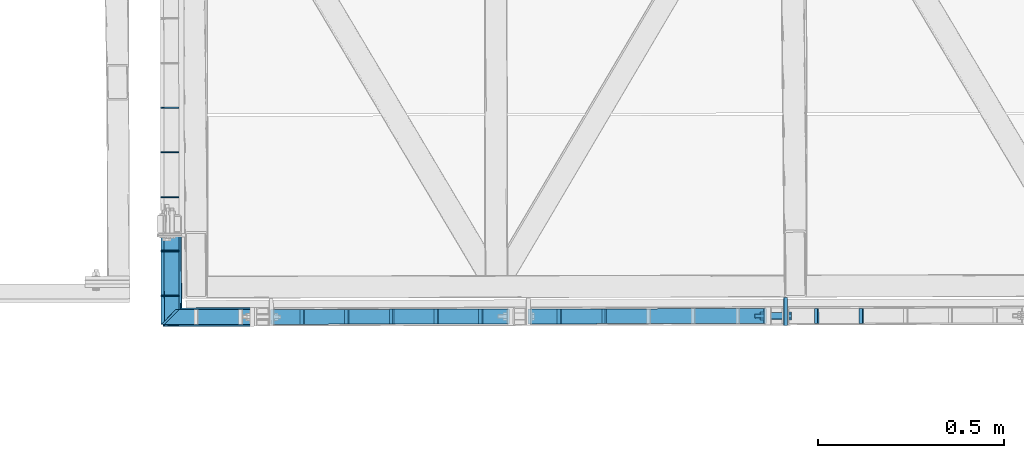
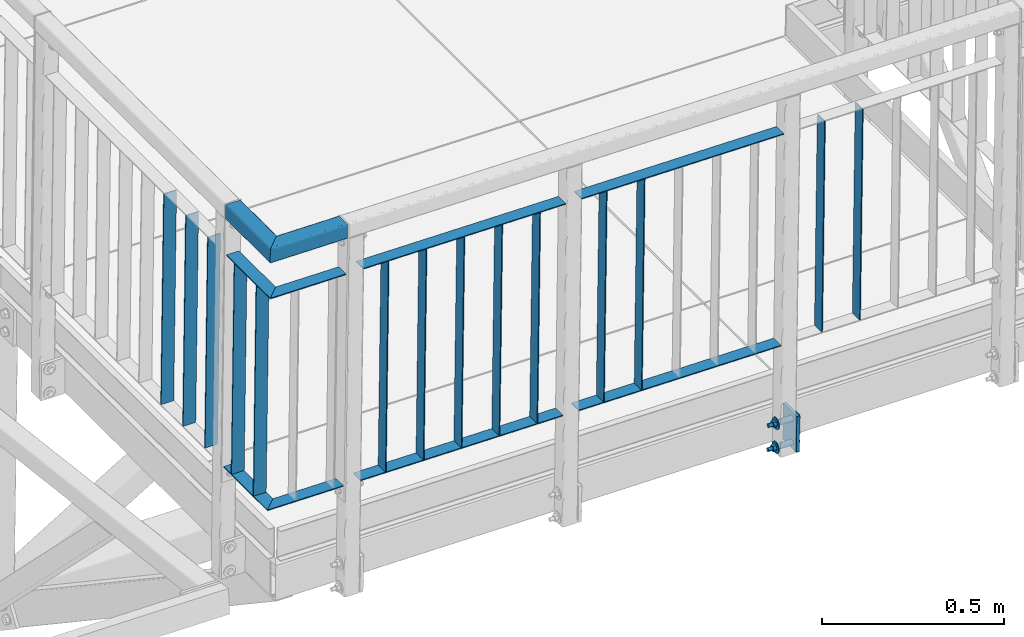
# One storey, part 99 of 169: 25 discrete accessories, 1 mechanical fastener, 2 elements without a shape of their own.
"""IFC2X3 building model written with IfcOpenShell, lengths in millimetres."""

from ifc_helpers import new_model, si_unit, frame, origin_with_axes, origin_2d_with_axis, place, context, subcontext, project, spatial, polyline, rectangle, hollow_rectangle, circle, outline, extrude, boolean, clip, halfspace, source, transform, mapped, material, type_object, element, aggregate, save


model = new_model("IFC2X3")

# Units and contexts
model_context = context("Model", 3, precision=1e-05, world=origin_with_axes())
body_context = subcontext(model_context, "Body", "Model", "MODEL_VIEW")
ifc_project = project(units=[si_unit("LENGTHUNIT", "METRE", prefix="MILLI"), si_unit("AREAUNIT", "SQUARE_METRE"), si_unit("VOLUMEUNIT", "CUBIC_METRE"), si_unit("MASSUNIT", "GRAM", prefix="KILO"), si_unit("TIMEUNIT", "SECOND"), si_unit("PLANEANGLEUNIT", "RADIAN"), si_unit("SOLIDANGLEUNIT", "STERADIAN"), si_unit("THERMODYNAMICTEMPERATUREUNIT", "DEGREE_CELSIUS"), si_unit("LUMINOUSINTENSITYUNIT", "LUMEN")], contexts=[model_context])

# Site, building, storey
site_placement = place(None, origin_with_axes())
site = spatial("IfcSite", under=ifc_project, at=site_placement, Name="Undefined", CompositionType="ELEMENT")
building_placement = place(site_placement, origin_with_axes())
building = spatial("IfcBuilding", under=site, at=building_placement, Name="Undefined", CompositionType="ELEMENT")
storey_placement = place(building_placement, origin_with_axes())
storey = spatial("IfcBuildingStorey", under=building, at=storey_placement, Name="Undefined", CompositionType="ELEMENT", Elevation=0.0)

# Assembly, discrete accessory
assembly_1_placement = place(storey_placement, origin_with_axes())
assembly_1 = element("IfcElementAssembly", 1, at=assembly_1_placement, inside=storey, Name="Steel Assembly", AssemblyPlace="NOTDEFINED", PredefinedType="RIGID_FRAME")
ifc_material_1 = material(Name="STEEL/S235")
discrete_accessory_type_1 = type_object("IfcDiscreteAccessoryType", Name="BLACHA")
discrete_accessory_1_placement = place(assembly_1_placement, frame((9317.47448240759, -1437.61285706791, 13835.8454229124), z_axis=(-0.999917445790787, -0.00186469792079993, 0.0127131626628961), x_axis=(0.00186484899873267, -0.999998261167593, 4.28757666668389e-08)))
discrete_accessory_1 = element("IfcDiscreteAccessory", 2, at=discrete_accessory_1_placement, type_object=discrete_accessory_type_1, material=ifc_material_1, Name="BLACHA", ObjectType="BL10*120", context=body_context, shape_type="SweptSolid", body=[
    extrude(outline(polyline([(75.0000002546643, -60.0000000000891), (-5.35749222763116e-11, -59.9999999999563), (5.3567816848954e-11, 59.9999999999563), (75.0000002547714, 59.9999999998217), (75.0000002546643, -60.0000000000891)])), frame((-1.81898926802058e-12, -1.18000176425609e-16, -5.00000000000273), z_axis=(0.0, 0.0, 1.0), x_axis=(1.0, 0.0, 0.0)), (0.0, 0.0, 1.0), 10.0),
])
aggregate(assembly_1, [discrete_accessory_1])

# Assembly, discrete accessories, mechanical fastener
assembly_2_placement = place(storey_placement, origin_with_axes())
assembly_2 = element("IfcElementAssembly", 3, at=assembly_2_placement, inside=storey, Name="Steel Assembly", AssemblyPlace="NOTDEFINED", PredefinedType="RIGID_FRAME")
discrete_accessory_type_2 = type_object("IfcDiscreteAccessoryType", Name="PORĘCZ")
discrete_accessory_2_placement = place(assembly_2_placement, frame((9527.46551248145, -1487.22129169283, 14993.270493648), z_axis=(-0.0018648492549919, 0.999998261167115, -4.2996762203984e-08), x_axis=(-0.012713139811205, -2.37511238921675e-05, -0.999919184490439)))
discrete_accessory_2 = element("IfcDiscreteAccessory", 4, at=discrete_accessory_2_placement, type_object=discrete_accessory_type_2, material=ifc_material_1, Name="PORĘCZ", ObjectType="BL40*3", context=body_context, shape_type="Clipping", body=[
    clip(clip(extrude(rectangle(XDim=3.0, YDim=40.0, at=origin_2d_with_axis()), frame((848.500000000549, 1.47191286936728e-15, -8.89750592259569e-16), z_axis=(-1.0, -3.46944695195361e-18, -1.38777878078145e-17), x_axis=(1.73472347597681e-18, -1.0, 0.0)), (0.0, 0.0, 1.0), 702.0), halfspace(frame((848.499999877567, 4.522007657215e-09, 1000.00000000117), z_axis=(-1.0, -3.46944695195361e-18, -1.38777878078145e-17), x_axis=(1.73472347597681e-18, -1.0, 0.0)), True)), halfspace(frame((146.499999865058, 4.97311702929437e-09, 1000.00000000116), z_axis=(1.0, 0.0, 0.0), x_axis=(0.0, 1.0, 0.0)), True)),
])
discrete_accessory_3_placement = place(assembly_2_placement, frame((9407.47541898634, -1487.44505545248, 14994.7960730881), z_axis=(-0.0018648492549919, 0.999998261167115, -4.2996762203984e-08), x_axis=(-0.012713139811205, -2.37511238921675e-05, -0.999919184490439)))
discrete_accessory_3 = element("IfcDiscreteAccessory", 5, at=discrete_accessory_3_placement, type_object=discrete_accessory_type_2, material=ifc_material_1, Name="PORĘCZ", ObjectType="BL40*3", context=body_context, shape_type="Clipping", body=[
    clip(clip(extrude(rectangle(XDim=3.0, YDim=40.0, at=origin_2d_with_axis()), frame((848.500000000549, 1.47191286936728e-15, -8.89750592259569e-16), z_axis=(-1.0, -3.46944695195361e-18, -1.38777878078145e-17), x_axis=(1.73472347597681e-18, -1.0, 0.0)), (0.0, 0.0, 1.0), 702.0), halfspace(frame((848.499999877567, 4.522007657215e-09, 1000.00000000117), z_axis=(-1.0, -3.46944695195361e-18, -1.38777878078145e-17), x_axis=(1.73472347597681e-18, -1.0, 0.0)), True)), halfspace(frame((146.499999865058, 4.97311702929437e-09, 1000.00000000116), z_axis=(1.0, 0.0, 0.0), x_axis=(0.0, 1.0, 0.0)), True)),
])
discrete_accessory_4_placement = place(assembly_2_placement, frame((9560.48906803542, -1487.15974421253, 14142.781926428), z_axis=(-0.012713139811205, -2.37511238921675e-05, -0.999919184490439), x_axis=(-0.999917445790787, -0.00186469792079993, 0.0127131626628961)))
discrete_accessory_4 = element("IfcDiscreteAccessory", 6, at=discrete_accessory_4_placement, type_object=discrete_accessory_type_2, material=ifc_material_1, Name="PORĘCZ", ObjectType="BL40*3", context=body_context, shape_type="Clipping", body=[
    clip(extrude(outline(polyline([(935.000000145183, -19.9999999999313), (294.000000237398, -19.9999999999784), (294.000000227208, 20.0000000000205), (935.000000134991, 20.0000000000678), (935.000000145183, -19.9999999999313)])), frame((1.81898940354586e-12, -1.77635442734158e-15, -1.50000000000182), z_axis=(0.0, 0.0, 1.0), x_axis=(1.0, 0.0, 0.0)), (0.0, 0.0, 1.0), 3.0), halfspace(frame((293.999999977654, 1000.00000000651, -6.87577994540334e-09), z_axis=(1.0, 0.0, 0.0), x_axis=(-2.54700353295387e-10, 0.0, -1.0)), True)),
])
discrete_accessory_5_placement = place(assembly_2_placement, frame((8836.52255752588, -1488.50979801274, 15002.055288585), z_axis=(-0.0018648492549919, 0.999998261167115, -4.2996762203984e-08), x_axis=(-0.012713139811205, -2.37511238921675e-05, -0.999919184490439)))
discrete_accessory_5 = element("IfcDiscreteAccessory", 7, at=discrete_accessory_5_placement, type_object=discrete_accessory_type_2, material=ifc_material_1, Name="PORĘCZ", ObjectType="BL40*3", context=body_context, shape_type="Clipping", body=[
    clip(clip(extrude(rectangle(XDim=3.0, YDim=40.0, at=origin_2d_with_axis()), frame((848.500000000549, 1.47191286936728e-15, -8.89750592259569e-16), z_axis=(-1.0, -3.46944695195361e-18, -1.38777878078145e-17), x_axis=(1.73472347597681e-18, -1.0, 0.0)), (0.0, 0.0, 1.0), 702.0), halfspace(frame((848.499999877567, 4.522007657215e-09, 1000.00000000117), z_axis=(-1.0, -3.46944695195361e-18, -1.38777878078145e-17), x_axis=(1.73472347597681e-18, -1.0, 0.0)), True)), halfspace(frame((146.499999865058, 4.97311702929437e-09, 1000.00000000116), z_axis=(1.0, 0.0, 0.0), x_axis=(0.0, 1.0, 0.0)), True)),
])
discrete_accessory_6_placement = place(assembly_2_placement, frame((8716.53246403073, -1488.73356177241, 15003.5808680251), z_axis=(-0.0018648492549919, 0.999998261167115, -4.2996762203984e-08), x_axis=(-0.012713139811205, -2.37511238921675e-05, -0.999919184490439)))
discrete_accessory_6 = element("IfcDiscreteAccessory", 8, at=discrete_accessory_6_placement, type_object=discrete_accessory_type_2, material=ifc_material_1, Name="PORĘCZ", ObjectType="BL40*3", context=body_context, shape_type="Clipping", body=[
    clip(clip(extrude(rectangle(XDim=3.0, YDim=40.0, at=origin_2d_with_axis()), frame((848.500000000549, 1.47191286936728e-15, -8.89750592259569e-16), z_axis=(-1.0, -3.46944695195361e-18, -1.38777878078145e-17), x_axis=(1.73472347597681e-18, -1.0, 0.0)), (0.0, 0.0, 1.0), 702.0), halfspace(frame((848.499999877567, 4.522007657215e-09, 1000.00000000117), z_axis=(-1.0, -3.46944695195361e-18, -1.38777878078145e-17), x_axis=(1.73472347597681e-18, -1.0, 0.0)), True)), halfspace(frame((146.499999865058, 4.97311702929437e-09, 1000.00000000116), z_axis=(1.0, 0.0, 0.0), x_axis=(0.0, 1.0, 0.0)), True)),
])
discrete_accessory_7_placement = place(assembly_2_placement, frame((9569.45183160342, -1487.14299975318, 14847.7249514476), z_axis=(-0.012713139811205, -2.37511238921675e-05, -0.999919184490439), x_axis=(-0.999917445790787, -0.00186469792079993, 0.0127131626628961)))
discrete_accessory_7 = element("IfcDiscreteAccessory", 9, at=discrete_accessory_7_placement, type_object=discrete_accessory_type_2, material=ifc_material_1, Name="PORĘCZ", ObjectType="BL40*3", context=body_context, shape_type="Clipping", body=[
    clip(extrude(outline(polyline([(935.000000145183, -19.9999999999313), (294.000000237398, -19.9999999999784), (294.000000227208, 20.0000000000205), (935.000000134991, 20.0000000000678), (935.000000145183, -19.9999999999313)])), frame((1.81898940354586e-12, -1.77635442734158e-15, -1.50000000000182), z_axis=(0.0, 0.0, 1.0), x_axis=(1.0, 0.0, 0.0)), (0.0, 0.0, 1.0), 3.0), halfspace(frame((293.999999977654, 1000.00000000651, -6.87577994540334e-09), z_axis=(1.0, 0.0, 0.0), x_axis=(-2.54700353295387e-10, 0.0, -1.0)), True)),
])
discrete_accessory_8_placement = place(assembly_2_placement, frame((7670.12116042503, -1313.18465357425, 15016.8809466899), z_axis=(0.9999174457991, 0.00186469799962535, -0.0127131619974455), x_axis=(-0.012713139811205, -2.37511238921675e-05, -0.999919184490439)))
discrete_accessory_8 = element("IfcDiscreteAccessory", 10, at=discrete_accessory_8_placement, type_object=discrete_accessory_type_2, material=ifc_material_1, Name="PORĘCZ", ObjectType="BL40*3", context=body_context, shape_type="Clipping", body=[
    clip(clip(extrude(rectangle(XDim=3.0, YDim=40.0, at=origin_2d_with_axis()), frame((848.500000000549, 1.47191286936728e-15, -8.89750592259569e-16), z_axis=(-1.0, -3.46944695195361e-18, -1.38777878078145e-17), x_axis=(1.73472347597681e-18, -1.0, 0.0)), (0.0, 0.0, 1.0), 702.0), halfspace(frame((848.500000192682, -1.64149582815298e-10, -999.999999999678), z_axis=(-1.0, -3.46944695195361e-18, -1.38777878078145e-17), x_axis=(0.0, 1.0, 0.0)), True)), halfspace(frame((146.500000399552, -5.92180526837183e-10, -999.999999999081), z_axis=(1.0, 0.0, 0.0), x_axis=(1.73472347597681e-18, -1.0, 0.0)), True)),
])
discrete_accessory_9_placement = place(assembly_2_placement, frame((7670.34494233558, -1433.18444491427, 15016.8809518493), z_axis=(0.9999174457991, 0.00186469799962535, -0.0127131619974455), x_axis=(-0.012713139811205, -2.37511238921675e-05, -0.999919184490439)))
discrete_accessory_9 = element("IfcDiscreteAccessory", 11, at=discrete_accessory_9_placement, type_object=discrete_accessory_type_2, material=ifc_material_1, Name="PORĘCZ", ObjectType="BL40*3", context=body_context, shape_type="Clipping", body=[
    clip(clip(extrude(rectangle(XDim=3.0, YDim=40.0, at=origin_2d_with_axis()), frame((848.500000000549, 1.47191286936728e-15, -8.89750592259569e-16), z_axis=(-1.0, -3.46944695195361e-18, -1.38777878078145e-17), x_axis=(1.73472347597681e-18, -1.0, 0.0)), (0.0, 0.0, 1.0), 702.0), halfspace(frame((848.500000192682, -1.64149582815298e-10, -999.999999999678), z_axis=(-1.0, -3.46944695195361e-18, -1.38777878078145e-17), x_axis=(0.0, 1.0, 0.0)), True)), halfspace(frame((146.500000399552, -5.92180526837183e-10, -999.999999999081), z_axis=(1.0, 0.0, 0.0), x_axis=(1.73472347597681e-18, -1.0, 0.0)), True)),
])
discrete_accessory_10_placement = place(assembly_2_placement, frame((7668.18917442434, -1265.68818028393, 14871.8926626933), z_axis=(-0.012713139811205, -2.37511238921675e-05, -0.999919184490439), x_axis=(0.00186484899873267, -0.999998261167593, 4.28757666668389e-08)))
discrete_accessory_10 = element("IfcDiscreteAccessory", 12, at=discrete_accessory_10_placement, type_object=discrete_accessory_type_2, material=ifc_material_1, Name="PORĘCZ", ObjectType="BL40*3", context=body_context, shape_type="CSG", body=[
    boolean("DIFFERENCE", boolean("DIFFERENCE", boolean("DIFFERENCE", boolean("DIFFERENCE", extrude(outline(polyline([(4.99999984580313, 20.0000000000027), (245.000001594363, 19.9999999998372), (205.000001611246, -20.0000000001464), (5.00000188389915, -20.0000000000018), (4.99999984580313, 20.0000000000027)])), frame((1.81898940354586e-12, -1.77635442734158e-15, -1.50000000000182), z_axis=(0.0, 0.0, 1.0), x_axis=(1.0, 0.0, 0.0)), (0.0, 0.0, 1.0), 3.0), extrude(rectangle(XDim=51.0, YDim=51.0, at=origin_2d_with_axis()), frame((-25.0000001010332, -1.80187129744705e-07, -139.999999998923), z_axis=(0.0, 0.0, 1.0), x_axis=(-1.0, -3.46944695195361e-18, -1.38777878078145e-17)), (0.0, 0.0, 1.0), 280.0)), halfspace(frame((4.99999813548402, 1000.00000000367, -4.42014425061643e-10), z_axis=(1.0, 0.0, 0.0), x_axis=(-2.54700353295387e-10, 0.0, -1.0)), True)), halfspace(frame((245.000001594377, 20.0000000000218, 7.27595761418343e-12), z_axis=(0.707106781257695, -0.7071067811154, 8.78533101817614e-11), x_axis=(-2.54700353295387e-10, 0.0, -1.0)), False)), halfspace(frame((-8.25479219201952e-07, 1000.00000001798, 2.65572452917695e-09), z_axis=(1.0, 0.0, 0.0), x_axis=(-2.54700353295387e-10, 0.0, -1.0)), True)),
])
discrete_accessory_11_placement = place(assembly_2_placement, frame((7895.43360214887, -1490.26478958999, 15014.0204927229), z_axis=(-0.0018648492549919, 0.999998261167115, -4.2996762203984e-08), x_axis=(-0.999917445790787, -0.00186469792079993, 0.0127131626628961)))
discrete_accessory_11 = element("IfcDiscreteAccessory", 13, at=discrete_accessory_11_placement, type_object=discrete_accessory_type_2, material=ifc_material_1, Name="PORĘCZ", ObjectType="RHS50*3", context=body_context, shape_type="Clipping", body=[
    clip(clip(extrude(hollow_rectangle(XDim=50.0, YDim=50.0, WallThickness=3.0, InnerFilletRadius=3.0, OuterFilletRadius=6.0, at=origin_2d_with_axis()), frame((251.628093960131, 0.0, 4.54766852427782e-13), z_axis=(-1.0, -3.46944695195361e-18, -1.38777878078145e-17), x_axis=(1.73472347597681e-18, -1.0, 0.0)), (0.0, 0.0, 1.0), 246.63), halfspace(frame((250.000001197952, 9.74578142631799e-08, -25.0000000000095), z_axis=(-0.707106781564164, -2.34576254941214e-10, -0.707106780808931), x_axis=(0.0, 1.0, 0.0)), True)), halfspace(frame((4.99999708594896, 5.00222085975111e-10, 999.999999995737), z_axis=(1.0, 0.0, 0.0), x_axis=(0.0, 1.0, 0.0)), True)),
])
discrete_accessory_12_placement = place(assembly_2_placement, frame((7668.60876685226, -1490.68779065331, 14871.8926724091), z_axis=(0.012713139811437, 2.3750999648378e-05, 0.999919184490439), x_axis=(0.9999174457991, 0.00186469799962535, -0.0127131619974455)))
discrete_accessory_12 = element("IfcDiscreteAccessory", 14, at=discrete_accessory_12_placement, type_object=discrete_accessory_type_2, material=ifc_material_1, Name="PORĘCZ", ObjectType="BL40*3", context=body_context, shape_type="CSG", body=[
    boolean("DIFFERENCE", boolean("DIFFERENCE", boolean("DIFFERENCE", boolean("DIFFERENCE", extrude(outline(polyline([(-20.000001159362, -19.9999999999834), (19.9999987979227, 19.9999999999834), (220.000004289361, 20.0000000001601), (220.000004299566, -19.9999999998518), (-20.000001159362, -19.9999999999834)])), frame((1.81898940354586e-12, -1.77635442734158e-15, -1.50000000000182), z_axis=(0.0, 0.0, 1.0), x_axis=(1.0, 0.0, 0.0)), (0.0, 0.0, 1.0), 3.0), extrude(rectangle(XDim=51.0, YDim=51.0, at=origin_2d_with_axis()), frame((249.999999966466, -2.54023980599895e-08, 139.999999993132), z_axis=(-2.54700353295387e-10, 0.0, -1.0), x_axis=(-1.0, -3.46944695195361e-18, -1.38777878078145e-17)), (0.0, 0.0, 1.0), 280.0)), halfspace(frame((220.000002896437, 999.999999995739, 3.80168785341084e-10), z_axis=(-1.0, -3.46944695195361e-18, -1.38777878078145e-17), x_axis=(0.0, 0.0, 1.0)), True)), halfspace(frame((-20.0000011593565, -19.9999999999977, -5.57247403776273e-08), z_axis=(0.707106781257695, -0.7071067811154, 8.78533101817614e-11), x_axis=(0.0, 0.0, 1.0)), True)), halfspace(frame((224.999999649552, 999.999999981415, 6.55563781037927e-09), z_axis=(-1.0, -3.46944695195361e-18, -1.38777878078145e-17), x_axis=(0.0, 0.0, 1.0)), True)),
])
discrete_accessory_13_placement = place(assembly_2_placement, frame((7669.40319321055, -928.185323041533, 15016.8809301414), z_axis=(0.9999174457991, 0.00186469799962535, -0.0127131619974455), x_axis=(-0.012713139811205, -2.37511238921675e-05, -0.999919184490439)))
discrete_accessory_13 = element("IfcDiscreteAccessory", 15, at=discrete_accessory_13_placement, type_object=discrete_accessory_type_2, material=ifc_material_1, Name="PORĘCZ", ObjectType="BL40*3", context=body_context, shape_type="Clipping", body=[
    clip(clip(extrude(rectangle(XDim=3.0, YDim=40.0, at=origin_2d_with_axis()), frame((848.500000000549, 1.47191286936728e-15, -8.89750592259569e-16), z_axis=(-1.0, -3.46944695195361e-18, -1.38777878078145e-17), x_axis=(1.73472347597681e-18, -1.0, 0.0)), (0.0, 0.0, 1.0), 702.0), halfspace(frame((848.500000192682, -1.64149582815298e-10, -999.999999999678), z_axis=(-1.0, -3.46944695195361e-18, -1.38777878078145e-17), x_axis=(0.0, 1.0, 0.0)), True)), halfspace(frame((146.500000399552, -5.92180526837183e-10, -999.999999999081), z_axis=(1.0, 0.0, 0.0), x_axis=(1.73472347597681e-18, -1.0, 0.0)), True)),
])
discrete_accessory_14_placement = place(assembly_2_placement, frame((7669.62697512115, -1048.18511438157, 15016.8809353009), z_axis=(0.9999174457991, 0.00186469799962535, -0.0127131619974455), x_axis=(-0.012713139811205, -2.37511238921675e-05, -0.999919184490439)))
discrete_accessory_14 = element("IfcDiscreteAccessory", 16, at=discrete_accessory_14_placement, type_object=discrete_accessory_type_2, material=ifc_material_1, Name="PORĘCZ", ObjectType="BL40*3", context=body_context, shape_type="Clipping", body=[
    clip(clip(extrude(rectangle(XDim=3.0, YDim=40.0, at=origin_2d_with_axis()), frame((848.500000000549, 1.47191286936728e-15, -8.89750592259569e-16), z_axis=(-1.0, -3.46944695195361e-18, -1.38777878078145e-17), x_axis=(1.73472347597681e-18, -1.0, 0.0)), (0.0, 0.0, 1.0), 702.0), halfspace(frame((848.500000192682, -1.64149582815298e-10, -999.999999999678), z_axis=(-1.0, -3.46944695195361e-18, -1.38777878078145e-17), x_axis=(0.0, 1.0, 0.0)), True)), halfspace(frame((146.500000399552, -5.92180526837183e-10, -999.999999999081), z_axis=(1.0, 0.0, 0.0), x_axis=(1.73472347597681e-18, -1.0, 0.0)), True)),
])
discrete_accessory_15_placement = place(assembly_2_placement, frame((7669.85075703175, -1168.1849057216, 15016.8809404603), z_axis=(0.9999174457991, 0.00186469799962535, -0.0127131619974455), x_axis=(-0.012713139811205, -2.37511238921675e-05, -0.999919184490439)))
discrete_accessory_15 = element("IfcDiscreteAccessory", 17, at=discrete_accessory_15_placement, type_object=discrete_accessory_type_2, material=ifc_material_1, Name="PORĘCZ", ObjectType="BL40*3", context=body_context, shape_type="Clipping", body=[
    clip(clip(extrude(rectangle(XDim=3.0, YDim=40.0, at=origin_2d_with_axis()), frame((848.500000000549, 1.47191286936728e-15, -8.89750592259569e-16), z_axis=(-1.0, -3.46944695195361e-18, -1.38777878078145e-17), x_axis=(1.73472347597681e-18, -1.0, 0.0)), (0.0, 0.0, 1.0), 702.0), halfspace(frame((848.500000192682, -1.64149582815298e-10, -999.999999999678), z_axis=(-1.0, -3.46944695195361e-18, -1.38777878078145e-17), x_axis=(0.0, 1.0, 0.0)), True)), halfspace(frame((146.500000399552, -5.92180526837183e-10, -999.999999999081), z_axis=(1.0, 0.0, 0.0), x_axis=(1.73472347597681e-18, -1.0, 0.0)), True)),
])
discrete_accessory_16_placement = place(assembly_2_placement, frame((7659.22641099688, -1265.7049248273, 14166.9496378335), z_axis=(-0.012713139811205, -2.37511238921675e-05, -0.999919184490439), x_axis=(0.00186484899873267, -0.999998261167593, 4.28757666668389e-08)))
discrete_accessory_16 = element("IfcDiscreteAccessory", 18, at=discrete_accessory_16_placement, type_object=discrete_accessory_type_2, material=ifc_material_1, Name="PORĘCZ", ObjectType="BL40*3", context=body_context, shape_type="CSG", body=[
    boolean("DIFFERENCE", boolean("DIFFERENCE", boolean("DIFFERENCE", boolean("DIFFERENCE", extrude(outline(polyline([(4.99999984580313, 20.0000000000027), (245.000001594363, 19.9999999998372), (205.000001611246, -20.0000000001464), (5.00000188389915, -20.0000000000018), (4.99999984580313, 20.0000000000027)])), frame((1.81898940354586e-12, -1.77635442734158e-15, -1.50000000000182), z_axis=(0.0, 0.0, 1.0), x_axis=(1.0, 0.0, 0.0)), (0.0, 0.0, 1.0), 3.0), extrude(rectangle(XDim=51.0, YDim=51.0, at=origin_2d_with_axis()), frame((-25.0000001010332, -1.80187129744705e-07, -139.999999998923), z_axis=(0.0, 0.0, 1.0), x_axis=(-1.0, -3.46944695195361e-18, -1.38777878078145e-17)), (0.0, 0.0, 1.0), 280.0)), halfspace(frame((4.99999813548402, 1000.00000000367, -4.42014425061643e-10), z_axis=(1.0, 0.0, 0.0), x_axis=(-2.54700353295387e-10, 0.0, -1.0)), True)), halfspace(frame((-8.25479219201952e-07, 1000.00000001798, 2.65572452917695e-09), z_axis=(1.0, 0.0, 0.0), x_axis=(-2.54700353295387e-10, 0.0, -1.0)), True)), halfspace(frame((245.000001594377, 20.0000000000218, 7.27595761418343e-12), z_axis=(0.707106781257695, -0.7071067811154, 8.78533101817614e-11), x_axis=(-2.54700353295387e-10, 0.0, -1.0)), False)),
])
discrete_accessory_17_placement = place(assembly_2_placement, frame((7670.45217091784, -1490.68434506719, 15016.8809543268), z_axis=(0.9999174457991, 0.00186469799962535, -0.0127131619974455), x_axis=(-0.0018648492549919, 0.999998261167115, -4.2996762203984e-08)))
discrete_accessory_17 = element("IfcDiscreteAccessory", 19, at=discrete_accessory_17_placement, type_object=discrete_accessory_type_2, material=ifc_material_1, Name="PORĘCZ", ObjectType="RHS50*3", context=body_context, shape_type="Clipping", body=[
    clip(clip(extrude(hollow_rectangle(XDim=50.0, YDim=50.0, WallThickness=3.0, InnerFilletRadius=3.0, OuterFilletRadius=6.0, at=origin_2d_with_axis()), frame((220.000000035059, 5.64865096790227e-19, 9.09533525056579e-13), z_axis=(-1.0, -3.46944695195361e-18, -1.38777878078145e-17), x_axis=(1.73472347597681e-18, -1.0, 0.0)), (0.0, 0.0, 1.0), 245.44), halfspace(frame((220.000001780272, 5.6206772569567e-10, -1000.00000000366), z_axis=(-1.0, -3.46944695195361e-18, -1.38777878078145e-17), x_axis=(0.0, 1.0, 0.0)), True)), halfspace(frame((-25.0000015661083, -1.09139364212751e-11, -25.0000000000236), z_axis=(-0.707106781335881, -2.34577541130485e-10, 0.707106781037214), x_axis=(0.0, 1.0, 0.0)), False)),
])
discrete_accessory_18_placement = place(assembly_2_placement, frame((7659.64600328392, -1490.7045351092, 14166.9496473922), z_axis=(0.012713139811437, 2.3750999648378e-05, 0.999919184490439), x_axis=(0.9999174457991, 0.00186469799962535, -0.0127131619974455)))
discrete_accessory_18 = element("IfcDiscreteAccessory", 20, at=discrete_accessory_18_placement, type_object=discrete_accessory_type_2, material=ifc_material_1, Name="PORĘCZ", ObjectType="BL40*3", context=body_context, shape_type="CSG", body=[
    boolean("DIFFERENCE", boolean("DIFFERENCE", boolean("DIFFERENCE", boolean("DIFFERENCE", extrude(outline(polyline([(-20.000001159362, -19.9999999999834), (19.9999987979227, 19.9999999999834), (220.000004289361, 20.0000000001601), (220.000004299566, -19.9999999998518), (-20.000001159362, -19.9999999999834)])), frame((1.81898940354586e-12, -1.77635442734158e-15, -1.50000000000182), z_axis=(0.0, 0.0, 1.0), x_axis=(1.0, 0.0, 0.0)), (0.0, 0.0, 1.0), 3.0), extrude(rectangle(XDim=51.0, YDim=51.0, at=origin_2d_with_axis()), frame((249.999999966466, -2.54023980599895e-08, 139.999999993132), z_axis=(-2.54700353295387e-10, 0.0, -1.0), x_axis=(-1.0, -3.46944695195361e-18, -1.38777878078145e-17)), (0.0, 0.0, 1.0), 280.0)), halfspace(frame((220.000002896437, 999.999999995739, 3.80168785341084e-10), z_axis=(-1.0, -3.46944695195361e-18, -1.38777878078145e-17), x_axis=(0.0, 0.0, 1.0)), True)), halfspace(frame((-20.0000011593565, -19.9999999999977, -5.57247403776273e-08), z_axis=(0.707106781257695, -0.7071067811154, 8.78533101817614e-11), x_axis=(0.0, 0.0, 1.0)), True)), halfspace(frame((224.999999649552, 999.999999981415, 6.55563781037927e-09), z_axis=(-1.0, -3.46944695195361e-18, -1.38777878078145e-17), x_axis=(0.0, 0.0, 1.0)), True)),
])
discrete_accessory_19_placement = place(assembly_2_placement, frame((8869.54611307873, -1488.44825053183, 14151.5667213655), z_axis=(-0.012713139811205, -2.37511238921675e-05, -0.999919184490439), x_axis=(-0.999917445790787, -0.00186469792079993, 0.0127131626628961)))
discrete_accessory_19 = element("IfcDiscreteAccessory", 21, at=discrete_accessory_19_placement, type_object=discrete_accessory_type_2, material=ifc_material_1, Name="PORĘCZ", ObjectType="BL40*3", context=body_context, shape_type="Clipping", body=[
    clip(extrude(outline(polyline([(935.000000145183, -19.9999999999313), (294.000000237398, -19.9999999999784), (294.000000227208, 20.0000000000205), (935.000000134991, 20.0000000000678), (935.000000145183, -19.9999999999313)])), frame((1.81898940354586e-12, -1.77635442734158e-15, -1.50000000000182), z_axis=(0.0, 0.0, 1.0), x_axis=(1.0, 0.0, 0.0)), (0.0, 0.0, 1.0), 3.0), halfspace(frame((293.999999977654, 1000.00000000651, -6.87577994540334e-09), z_axis=(1.0, 0.0, 0.0), x_axis=(-2.54700353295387e-10, 0.0, -1.0)), True)),
])
discrete_accessory_20_placement = place(assembly_2_placement, frame((8145.57960256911, -1489.79830433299, 15010.8400835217), z_axis=(-0.0018648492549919, 0.999998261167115, -4.2996762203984e-08), x_axis=(-0.012713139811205, -2.37511238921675e-05, -0.999919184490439)))
discrete_accessory_20 = element("IfcDiscreteAccessory", 22, at=discrete_accessory_20_placement, type_object=discrete_accessory_type_2, material=ifc_material_1, Name="PORĘCZ", ObjectType="BL40*3", context=body_context, shape_type="Clipping", body=[
    clip(clip(extrude(rectangle(XDim=3.0, YDim=40.0, at=origin_2d_with_axis()), frame((848.500000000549, 1.47191286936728e-15, -8.89750592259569e-16), z_axis=(-1.0, -3.46944695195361e-18, -1.38777878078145e-17), x_axis=(1.73472347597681e-18, -1.0, 0.0)), (0.0, 0.0, 1.0), 702.0), halfspace(frame((848.499999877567, 4.522007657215e-09, 1000.00000000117), z_axis=(-1.0, -3.46944695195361e-18, -1.38777878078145e-17), x_axis=(1.73472347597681e-18, -1.0, 0.0)), True)), halfspace(frame((146.499999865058, 4.97311702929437e-09, 1000.00000000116), z_axis=(1.0, 0.0, 0.0), x_axis=(0.0, 1.0, 0.0)), True)),
])
discrete_accessory_21_placement = place(assembly_2_placement, frame((8025.58950907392, -1490.02206809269, 15012.3656629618), z_axis=(-0.0018648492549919, 0.999998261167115, -4.2996762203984e-08), x_axis=(-0.012713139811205, -2.37511238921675e-05, -0.999919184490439)))
discrete_accessory_21 = element("IfcDiscreteAccessory", 23, at=discrete_accessory_21_placement, type_object=discrete_accessory_type_2, material=ifc_material_1, Name="PORĘCZ", ObjectType="BL40*3", context=body_context, shape_type="Clipping", body=[
    clip(clip(extrude(rectangle(XDim=3.0, YDim=40.0, at=origin_2d_with_axis()), frame((848.500000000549, 1.47191286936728e-15, -8.89750592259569e-16), z_axis=(-1.0, -3.46944695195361e-18, -1.38777878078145e-17), x_axis=(1.73472347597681e-18, -1.0, 0.0)), (0.0, 0.0, 1.0), 702.0), halfspace(frame((848.499999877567, 4.522007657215e-09, 1000.00000000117), z_axis=(-1.0, -3.46944695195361e-18, -1.38777878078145e-17), x_axis=(1.73472347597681e-18, -1.0, 0.0)), True)), halfspace(frame((146.499999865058, 4.97311702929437e-09, 1000.00000000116), z_axis=(1.0, 0.0, 0.0), x_axis=(0.0, 1.0, 0.0)), True)),
])
discrete_accessory_22_placement = place(assembly_2_placement, frame((8878.50887664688, -1488.43150607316, 14856.5097463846), z_axis=(-0.012713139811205, -2.37511238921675e-05, -0.999919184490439), x_axis=(-0.999917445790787, -0.00186469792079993, 0.0127131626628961)))
discrete_accessory_22 = element("IfcDiscreteAccessory", 24, at=discrete_accessory_22_placement, type_object=discrete_accessory_type_2, material=ifc_material_1, Name="PORĘCZ", ObjectType="BL40*3", context=body_context, shape_type="Clipping", body=[
    clip(extrude(outline(polyline([(935.000000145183, -19.9999999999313), (294.000000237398, -19.9999999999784), (294.000000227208, 20.0000000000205), (935.000000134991, 20.0000000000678), (935.000000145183, -19.9999999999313)])), frame((1.81898940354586e-12, -1.77635442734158e-15, -1.50000000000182), z_axis=(0.0, 0.0, 1.0), x_axis=(1.0, 0.0, 0.0)), (0.0, 0.0, 1.0), 3.0), halfspace(frame((293.999999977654, 1000.00000000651, -6.87577994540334e-09), z_axis=(1.0, 0.0, 0.0), x_axis=(-2.54700353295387e-10, 0.0, -1.0)), True)),
])
discrete_accessory_23_placement = place(assembly_2_placement, frame((8505.54988305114, -1489.12701305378, 15006.2633452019), z_axis=(-0.0018648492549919, 0.999998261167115, -4.2996762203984e-08), x_axis=(-0.012713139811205, -2.37511238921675e-05, -0.999919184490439)))
discrete_accessory_23 = element("IfcDiscreteAccessory", 25, at=discrete_accessory_23_placement, type_object=discrete_accessory_type_2, material=ifc_material_1, Name="PORĘCZ", ObjectType="BL40*3", context=body_context, shape_type="Clipping", body=[
    clip(clip(extrude(rectangle(XDim=3.0, YDim=40.0, at=origin_2d_with_axis()), frame((848.500000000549, 1.47191286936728e-15, -8.89750592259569e-16), z_axis=(-1.0, -3.46944695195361e-18, -1.38777878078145e-17), x_axis=(1.73472347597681e-18, -1.0, 0.0)), (0.0, 0.0, 1.0), 702.0), halfspace(frame((848.499999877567, 4.522007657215e-09, 1000.00000000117), z_axis=(-1.0, -3.46944695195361e-18, -1.38777878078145e-17), x_axis=(1.73472347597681e-18, -1.0, 0.0)), True)), halfspace(frame((146.499999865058, 4.97311702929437e-09, 1000.00000000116), z_axis=(1.0, 0.0, 0.0), x_axis=(0.0, 1.0, 0.0)), True)),
])
discrete_accessory_24_placement = place(assembly_2_placement, frame((8385.55978955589, -1489.3507768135, 15007.7889246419), z_axis=(-0.0018648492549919, 0.999998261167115, -4.2996762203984e-08), x_axis=(-0.012713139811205, -2.37511238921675e-05, -0.999919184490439)))
discrete_accessory_24 = element("IfcDiscreteAccessory", 26, at=discrete_accessory_24_placement, type_object=discrete_accessory_type_2, material=ifc_material_1, Name="PORĘCZ", ObjectType="BL40*3", context=body_context, shape_type="Clipping", body=[
    clip(clip(extrude(rectangle(XDim=3.0, YDim=40.0, at=origin_2d_with_axis()), frame((848.500000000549, 1.47191286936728e-15, -8.89750592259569e-16), z_axis=(-1.0, -3.46944695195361e-18, -1.38777878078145e-17), x_axis=(1.73472347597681e-18, -1.0, 0.0)), (0.0, 0.0, 1.0), 702.0), halfspace(frame((848.499999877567, 4.522007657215e-09, 1000.00000000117), z_axis=(-1.0, -3.46944695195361e-18, -1.38777878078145e-17), x_axis=(1.73472347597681e-18, -1.0, 0.0)), True)), halfspace(frame((146.499999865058, 4.97311702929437e-09, 1000.00000000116), z_axis=(1.0, 0.0, 0.0), x_axis=(0.0, 1.0, 0.0)), True)),
])
discrete_accessory_25_placement = place(assembly_2_placement, frame((8265.56969606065, -1489.57454057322, 15009.314504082), z_axis=(-0.0018648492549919, 0.999998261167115, -4.2996762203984e-08), x_axis=(-0.012713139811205, -2.37511238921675e-05, -0.999919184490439)))
discrete_accessory_25 = element("IfcDiscreteAccessory", 27, at=discrete_accessory_25_placement, type_object=discrete_accessory_type_2, material=ifc_material_1, Name="PORĘCZ", ObjectType="BL40*3", context=body_context, shape_type="Clipping", body=[
    clip(clip(extrude(rectangle(XDim=3.0, YDim=40.0, at=origin_2d_with_axis()), frame((848.500000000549, 1.47191286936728e-15, -8.89750592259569e-16), z_axis=(-1.0, -3.46944695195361e-18, -1.38777878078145e-17), x_axis=(1.73472347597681e-18, -1.0, 0.0)), (0.0, 0.0, 1.0), 702.0), halfspace(frame((848.499999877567, 4.522007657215e-09, 1000.00000000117), z_axis=(-1.0, -3.46944695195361e-18, -1.38777878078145e-17), x_axis=(1.73472347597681e-18, -1.0, 0.0)), True)), halfspace(frame((146.499999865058, 4.97311702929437e-09, 1000.00000000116), z_axis=(1.0, 0.0, 0.0), x_axis=(0.0, 1.0, 0.0)), True)),
])
ifc_material_2 = material(Name="Undefined")
discrete_accessory_type_3 = type_object("IfcDiscreteAccessoryType", Name="Bolt assembly")
shared_shape = source(origin_with_axes(), body_context, "Body", "SweptSolid", [
    extrude(circle(Radius=9.0, at=origin_2d_with_axis()), frame((0.0, -4.90000000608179, 0.0), z_axis=(0.0, 1.0, 0.0), x_axis=(1.0, 0.0, 0.0)), (0.0, 0.0, 1.0), 10.0),
    extrude(circle(Radius=9.0, at=origin_2d_with_axis()), frame((0.0, 4.89999999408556, 0.0), z_axis=(0.0, 1.0, 0.0), x_axis=(1.0, 0.0, 0.0)), (0.0, 0.0, 1.0), 50.1),
    extrude(outline(polyline([(10.39230484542, 0.0), (5.19615242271, 9.00000000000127), (-5.19615242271, 9.00000000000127), (-10.39230484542, 0.0), (-5.19615242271, -9.00000000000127), (5.19615242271, -9.00000000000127), (10.39230484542, 0.0)])), frame((0.0, -15.5000000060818, 0.0), z_axis=(0.0, 1.0, 0.0), x_axis=(1.0, 0.0, 0.0)), (0.0, 0.0, 1.0), 7.5),
    extrude(circle(Radius=6.0, at=origin_2d_with_axis()), frame((0.0, -8.00000000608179, 0.0), z_axis=(0.0, 1.0, 0.0), x_axis=(1.0, 0.0, 0.0)), (0.0, 0.0, 1.0), 90.0),
    extrude(circle(Radius=18.5, at=origin_2d_with_axis()), frame((0.0, -8.00000000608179, 0.0), z_axis=(0.0, 1.0, 0.0), x_axis=(1.0, 0.0, 0.0)), (0.0, 0.0, 1.0), 3.0),
    extrude(circle(Radius=18.5, at=origin_2d_with_axis()), frame((0.0, 54.9999999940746, 0.0), z_axis=(0.0, 1.0, 0.0), x_axis=(1.0, 0.0, 0.0)), (0.0, 0.0, 1.0), 3.0),
    extrude(outline(polyline([(10.96965511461, 0.0), (5.484827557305, 9.50000000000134), (-5.484827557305, 9.50000000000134), (-10.96965511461, 0.0), (-5.484827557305, -9.50000000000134), (5.484827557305, -9.50000000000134), (10.96965511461, 0.0)])), frame((0.0, 57.9999999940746, 0.0), z_axis=(0.0, 1.0, 0.0), x_axis=(1.0, 0.0, 0.0)), (0.0, 0.0, 1.0), 10.0),
])
mechanical_fastener_placement = place(assembly_2_placement, frame((9317.57408142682, -1487.61275787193, 13836.3453846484), z_axis=(0.0127140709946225, -0.00047624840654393, 0.999919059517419), x_axis=(-0.00185849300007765, 0.999998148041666, 0.000499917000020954)))
mechanical_fastener = element("IfcMechanicalFastener", 28, at=mechanical_fastener_placement, type_object=discrete_accessory_type_3, material=ifc_material_2, Name="Bolt assembly", NominalDiameter=12.0, NominalLength=90.0, context=body_context, shape_type="MappedRepresentation", body=[
    mapped(shared_shape, transform((-1.15463194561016e-14, 5.45696821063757e-11, -39.9999999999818))),
    mapped(shared_shape, transform((8.88178419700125e-15, -5.54791768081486e-11, 39.99999999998))),
])
aggregate(assembly_2, [discrete_accessory_2, discrete_accessory_3, mechanical_fastener, discrete_accessory_4, discrete_accessory_5, discrete_accessory_6, discrete_accessory_7, discrete_accessory_8, discrete_accessory_9, discrete_accessory_10, discrete_accessory_11, discrete_accessory_12, discrete_accessory_13, discrete_accessory_14, discrete_accessory_15, discrete_accessory_16, discrete_accessory_17, discrete_accessory_18, discrete_accessory_19, discrete_accessory_20, discrete_accessory_21, discrete_accessory_22, discrete_accessory_23, discrete_accessory_24, discrete_accessory_25])

save(model, "model.ifc")
